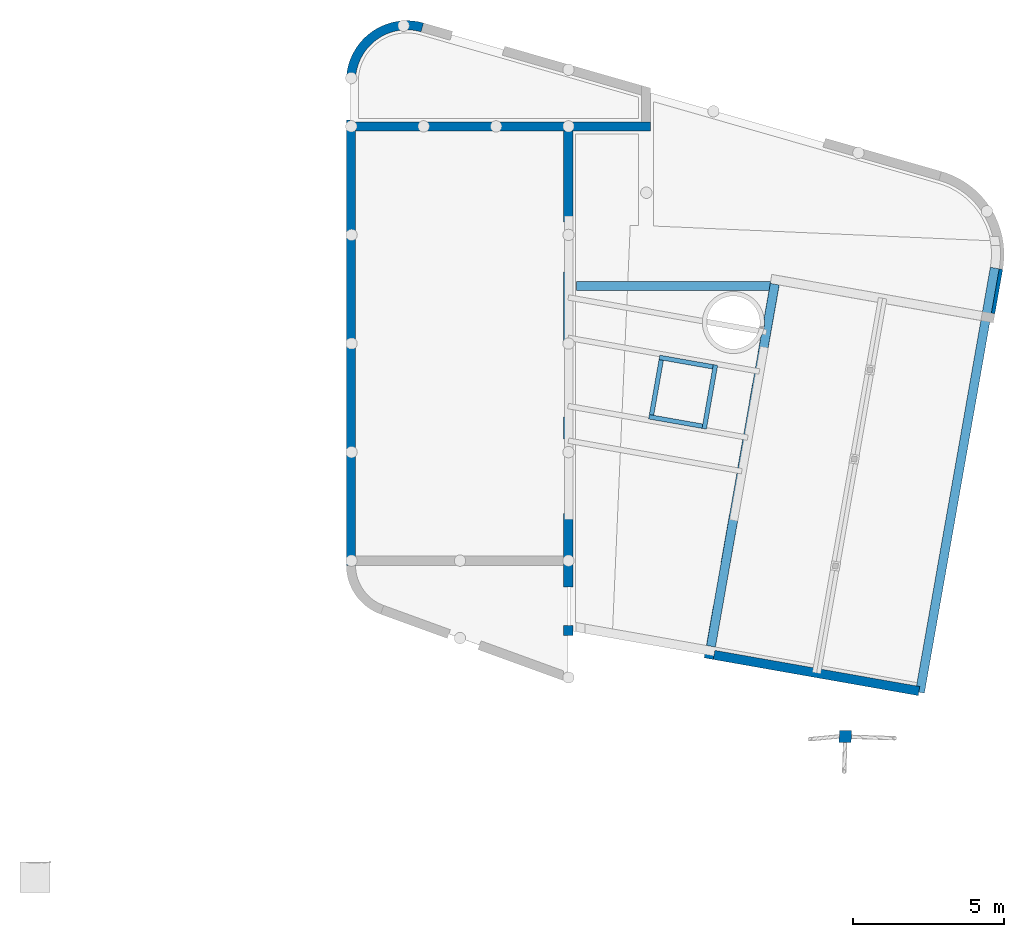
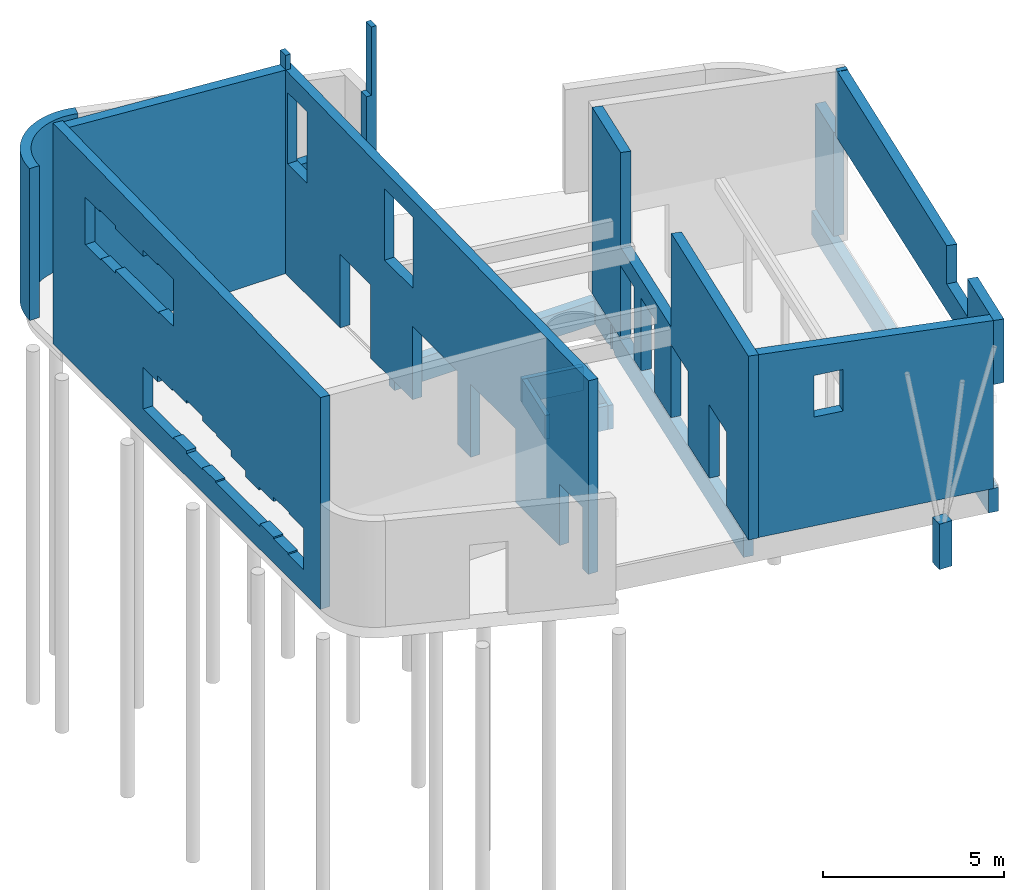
# One storey, part 2 of 3: 15 walls, 19 openings.
"""IFC2X3 building model written with IfcOpenShell, lengths in millimetres."""

from ifc_helpers import new_model, entity, si_unit, converted_unit, derived_unit, direction, frame, frame_2d, origin, place, context, subcontext, project, spatial, polyline, circle_curve, parameter, trimmed, segment, composite_curve, rectangle, outline, extrude, clip, bounded_halfspace, material, layer, layer_set, layer_usage, type_object, element, save


model = new_model("IFC2X3")

# Units and contexts
model_context = context("Model", 3, precision=0.01, world=origin(), true_north=direction((6.12303176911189e-17, 1.0)))
context_of_model = context(None, 3, precision=0.01, world=origin(), true_north=direction((6.12303176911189e-17, 1.0)))
body_context = subcontext(model_context, "Body", "Model", "MODEL_VIEW")
ifc_project = project(units=[si_unit("LENGTHUNIT", "METRE", prefix="MILLI"), si_unit("AREAUNIT", "SQUARE_METRE"), si_unit("VOLUMEUNIT", "CUBIC_METRE"), converted_unit("PLANEANGLEUNIT", "DEGREE", entity("IfcRatioMeasure", 0.0174532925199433), si_unit("PLANEANGLEUNIT", "RADIAN"), dimensions=[0, 0, 0, 0, 0, 0, 0]), si_unit("MASSUNIT", "GRAM", prefix="KILO"), derived_unit("MASSDENSITYUNIT", [(si_unit("MASSUNIT", "GRAM", prefix="KILO"), 1), (si_unit("LENGTHUNIT", "METRE"), -3)]), derived_unit("MOMENTOFINERTIAUNIT", [(si_unit("LENGTHUNIT", "METRE"), 4)]), si_unit("TIMEUNIT", "SECOND"), si_unit("FREQUENCYUNIT", "HERTZ"), si_unit("THERMODYNAMICTEMPERATUREUNIT", "DEGREE_CELSIUS"), derived_unit("THERMALTRANSMITTANCEUNIT", [(si_unit("MASSUNIT", "GRAM", prefix="KILO"), 1), (si_unit("THERMODYNAMICTEMPERATUREUNIT", "KELVIN"), -1), (si_unit("TIMEUNIT", "SECOND"), -3)]), derived_unit("VOLUMETRICFLOWRATEUNIT", [(si_unit("LENGTHUNIT", "METRE"), 3), (si_unit("TIMEUNIT", "SECOND"), -1)]), si_unit("ELECTRICCURRENTUNIT", "AMPERE"), si_unit("ELECTRICVOLTAGEUNIT", "VOLT"), si_unit("POWERUNIT", "WATT"), si_unit("FORCEUNIT", "NEWTON", prefix="KILO"), si_unit("ILLUMINANCEUNIT", "LUX"), si_unit("LUMINOUSFLUXUNIT", "LUMEN"), si_unit("LUMINOUSINTENSITYUNIT", "CANDELA"), derived_unit("USERDEFINED", [(si_unit("MASSUNIT", "GRAM", prefix="KILO"), -1), (si_unit("LENGTHUNIT", "METRE"), -2), (si_unit("TIMEUNIT", "SECOND"), 3), (si_unit("LUMINOUSFLUXUNIT", "LUMEN"), 1)]), derived_unit("LINEARVELOCITYUNIT", [(si_unit("LENGTHUNIT", "METRE"), 1), (si_unit("TIMEUNIT", "SECOND"), -1)]), si_unit("PRESSUREUNIT", "PASCAL"), derived_unit("USERDEFINED", [(si_unit("LENGTHUNIT", "METRE"), -2), (si_unit("MASSUNIT", "GRAM", prefix="KILO"), 1), (si_unit("TIMEUNIT", "SECOND"), -2)]), derived_unit("LINEARFORCEUNIT", [(si_unit("MASSUNIT", "GRAM", prefix="KILO"), 1), (si_unit("LENGTHUNIT", "METRE"), 1), (si_unit("TIMEUNIT", "SECOND"), -2), (si_unit("LENGTHUNIT", "METRE"), -1)]), derived_unit("PLANARFORCEUNIT", [(si_unit("MASSUNIT", "GRAM", prefix="KILO"), 1), (si_unit("LENGTHUNIT", "METRE"), 1), (si_unit("TIMEUNIT", "SECOND"), -2), (si_unit("LENGTHUNIT", "METRE"), -2)])], contexts=[model_context, context_of_model])

# Site, building, storey
site_placement = place(None, origin())
site = spatial("IfcSite", under=ifc_project, at=site_placement, Name="Default", CompositionType="ELEMENT")
building_placement = place(site_placement, origin())
building = spatial("IfcBuilding", under=site, at=building_placement, Name="IFc", CompositionType="ELEMENT")
storey_placement = place(building_placement, frame((0.0, 0.0, -70.0)))
storey = spatial("IfcBuildingStorey", under=building, at=storey_placement, Name="00 begane grond b.k. ruwe vloer", CompositionType="ELEMENT", Elevation=-70.0)

# Wall, opening
ifc_material_1 = material(Name="IMd_underlayment")
ifc_layer_1 = layer(ifc_material_1, 18.0)
ifc_material_2 = material(Name="IMd_hout")
ifc_layer_2 = layer(ifc_material_2, 270.0)
ifc_layer_3 = layer(ifc_material_1, 18.0)
ifc_layer_set_1 = layer_set([ifc_layer_1, ifc_layer_2, ifc_layer_3], Name="Basic Wall:NLRS_28_WA HSB_d=271")
ifc_layer_usage_1 = layer_usage(ifc_layer_set_1, "AXIS2", "NEGATIVE", 153.0)
wall_type_1 = type_object("IfcWallType", Name="Basic Wall:NLRS_28_WA HSB_d=271", PredefinedType="STANDARD", material=ifc_layer_set_1)
wall_1_placement = place(storey_placement, frame((19912.6696056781, 24397.0, 70.0), z_axis=(0.0, 0.0, 1.0), x_axis=(-1.0, 0.0, 0.0)))
wall_1 = element("IfcWallStandardCase", 1, at=wall_1_placement, inside=storey, type_object=wall_type_1, material=ifc_layer_usage_1, Name="Basic Wall:NLRS_28_WA HSB_d=271", ObjectType="Basic Wall:NLRS_28_WA HSB_d=271", context=body_context, shape_type="Clipping", body=[
    clip(extrude(rectangle(XDim=9787.66960567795, YDim=306.0, at=frame_2d((4893.83480283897, -5.25801624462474e-13), x_axis=(-1.0, 0.0))), origin(), (0.0, 0.0, 1.0), 7346.55553547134), bounded_halfspace(frame((2887.66960567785, -153.0, 6861.70889047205), z_axis=(0.0700806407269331, -0.0200951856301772, -0.997338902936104), x_axis=(0.958704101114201, -0.274902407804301, 0.0729048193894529)), True, frame((2887.66960567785, -153.0, 6861.70889047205)), polyline([(0.0, 0.0), (6900.0, 0.0), (6900.0, 306.0), (0.0, 306.0), (0.0, 0.0)]))),
])
opening_1_placement = place(wall_1_placement, origin())
element("IfcOpeningElement", 2, at=opening_1_placement, cuts=wall_1, Name="Basic Wall:NLRS_28_WA HSB_d=271", ObjectType="Opening", context=body_context, shape_type="SweptSolid", body=[
    extrude(outline(polyline([(-1670.11307045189, -4270.0), (911.556535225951, -4270.0), (911.556535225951, 1360.0), (758.556535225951, 1360.0), (758.556535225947, 2910.0), (-1670.1130704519, 2910.0), (-1670.11307045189, -4270.0)])), frame((1064.55653522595, 153.0, 6410.0), z_axis=(0.0, -1.0, 0.0), x_axis=(-1.0, 0.0, 0.0)), (0.0, 0.0, 1.0), 306.0),
])

# Wall, openings
ifc_layer_usage_2 = layer_usage(ifc_layer_set_1, "AXIS2", "NEGATIVE", 153.0)
wall_2_placement = place(storey_placement, frame((17178.0, 5903.98538399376, 60.0), z_axis=(0.0, 0.0, 1.0), x_axis=(0.0, 1.0, 0.0)))
wall_2 = element("IfcWallStandardCase", 3, at=wall_2_placement, inside=storey, type_object=wall_type_1, material=ifc_layer_usage_2, Name="Basic Wall:NLRS_28_WA HSB_d=271", ObjectType="Basic Wall:NLRS_28_WA HSB_d=271", context=body_context, shape_type="Clipping", body=[
    clip(clip(extrude(outline(polyline([(1619.46869295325, -153.0), (18646.0146160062, -153.0), (18646.0146160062, 153.0), (18340.0146160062, 153.0), (4246.01461600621, 153.0), (3940.01461600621, 153.0), (1619.46869295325, 153.0), (1619.46869295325, -153.0)])), origin(), (0.0, 0.0, 1.0), 6871.70889047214), bounded_halfspace(frame((1619.46869295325, -153.0, 6507.1424668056), z_axis=(0.0200951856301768, 0.0700806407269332, -0.997338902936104), x_axis=(0.274902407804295, 0.958704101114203, 0.0729048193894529)), True, frame((1619.46869295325, -153.0, 6507.1424668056)), polyline([(0.0, 0.0), (17026.545923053, 0.0), (17026.545923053, 306.0), (16720.545923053, 306.0), (2626.54592305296, 306.0), (2320.54592305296, 306.0), (0.0, 306.0), (0.0, 0.0)]))), bounded_halfspace(frame((18340.0146160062, -153.0, 10.0), z_axis=(-1.0, 0.0, 0.0), x_axis=(0.0, -1.0, 0.0)), True, frame((18340.0146160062, -153.0, 10.0), z_axis=(-1.0, 0.0, 0.0), x_axis=(0.0, -1.0, 0.0)), polyline([(0.0, 0.0), (0.0, 3500.0), (-306.0, 3500.0), (-306.0, 0.0), (0.0, 0.0)]))),
])
opening_2_placement = place(wall_2_placement, origin())
element("IfcOpeningElement", 4, at=opening_2_placement, cuts=wall_2, Name="Basic Wall:NLRS_28_WA HSB_d=271", ObjectType="Opening", context=body_context, shape_type="SweptSolid", body=[
    extrude(rectangle(XDim=2400.0, YDim=1567.0, at=frame_2d((0.0, 0.0), x_axis=(0.0, 1.0))), frame((12094.6040001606, 153.0, 4970.0), z_axis=(0.0, -1.0, 0.0), x_axis=(-1.0, 0.0, 0.0)), (0.0, 0.0, 1.0), 306.0),
])
opening_3_placement = place(wall_2_placement, origin())
element("IfcOpeningElement", 5, at=opening_3_placement, cuts=wall_2, Name="Basic Wall:NLRS_28_WA HSB_d=271", ObjectType="Opening", context=body_context, shape_type="SweptSolid", body=[
    extrude(rectangle(XDim=2400.00000000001, YDim=1064.0, at=frame_2d((0.0, 0.0), x_axis=(0.0, 1.0))), frame((17702.0146160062, 153.0, 4970.0), z_axis=(0.0, -1.0, 0.0), x_axis=(-1.0, 0.0, 0.0)), (0.0, 0.0, 1.0), 306.0),
])
opening_4_placement = place(wall_2_placement, origin())
element("IfcOpeningElement", 6, at=opening_4_placement, cuts=wall_2, Name="Basic Wall:NLRS_28_WA HSB_d=271", ObjectType="Opening", context=body_context, shape_type="SweptSolid", body=[
    extrude(rectangle(XDim=2070.0, YDim=1280.00000000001, at=frame_2d((0.0, -4.54747350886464e-13), x_axis=(0.0, 1.0))), frame((2584.75540203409, 153.0, 1035.0), z_axis=(0.0, -1.0, 0.0), x_axis=(1.0, 0.0, 0.0)), (0.0, 0.0, 1.0), 306.0),
])
opening_5_placement = place(wall_2_placement, origin())
element("IfcOpeningElement", 7, at=opening_5_placement, cuts=wall_2, Name="Basic Wall:NLRS_28_WA HSB_d=271", ObjectType="Opening", context=body_context, shape_type="SweptSolid", body=[
    extrude(rectangle(XDim=2470.00000000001, YDim=2467.0, at=frame_2d((0.0, 0.0), x_axis=(0.0, 1.0))), frame((6896.01461570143, 153.0, 1235.0), z_axis=(0.0, -1.0, 0.0), x_axis=(1.0, 0.0, 0.0)), (0.0, 0.0, 1.0), 306.0),
])
opening_6_placement = place(wall_2_placement, origin())
element("IfcOpeningElement", 8, at=opening_6_placement, cuts=wall_2, Name="Basic Wall:NLRS_28_WA HSB_d=271", ObjectType="Opening", context=body_context, shape_type="SweptSolid", body=[
    extrude(rectangle(XDim=2470.0, YDim=2467.0, at=frame_2d((0.0, 0.0), x_axis=(0.0, 1.0))), frame((10096.0146157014, 153.0, 1235.0), z_axis=(0.0, -1.0, 0.0), x_axis=(1.0, 0.0, 0.0)), (0.0, 0.0, 1.0), 306.0),
])
opening_7_placement = place(wall_2_placement, origin())
element("IfcOpeningElement", 9, at=opening_7_placement, cuts=wall_2, Name="Basic Wall:NLRS_28_WA HSB_d=271", ObjectType="Opening", context=body_context, shape_type="SweptSolid", body=[
    extrude(rectangle(XDim=2469.99999999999, YDim=1667.00000000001, at=frame_2d((-2.1600499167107e-12, -2.38742359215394e-12), x_axis=(0.0, 1.0))), frame((14496.0146160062, 153.0, 1235.0), z_axis=(0.0, -1.0, 0.0), x_axis=(1.0, 0.0, 0.0)), (0.0, 0.0, 1.0), 306.0),
])
opening_8_placement = place(wall_2_placement, origin())
element("IfcOpeningElement", 10, at=opening_8_placement, cuts=wall_2, Name="Basic Wall:NLRS_28_WA HSB_d=271", ObjectType="Opening", context=body_context, shape_type="SweptSolid", body=[
    extrude(rectangle(XDim=7190.00000000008, YDim=1400.98239480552, at=frame_2d((-5.6843418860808e-13, 1.13686837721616e-12), x_axis=(0.0, 1.0))), frame((918.977495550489, 153.0, 7095.0), z_axis=(0.0, -1.0, 0.0), x_axis=(-1.0, 0.0, 0.0)), (0.0, 0.0, 1.0), 306.0),
])
opening_9_placement = place(wall_2_placement, origin())
element("IfcOpeningElement", 11, at=opening_9_placement, cuts=wall_2, Name="Basic Wall:NLRS_28_WA HSB_d=271", ObjectType="Opening", context=body_context, shape_type="SweptSolid", body=[
    extrude(rectangle(XDim=2070.0, YDim=1199.26721811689, at=frame_2d((0.0, 4.54747350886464e-13), x_axis=(0.0, 1.0))), frame((1007.61038852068, 153.0, 1035.0), z_axis=(0.0, -1.0, 0.0), x_axis=(1.0, 0.0, 0.0)), (0.0, 0.0, 1.0), 306.0),
])

ifc_layer_usage_3 = layer_usage(ifc_layer_set_1, "AXIS2", "NEGATIVE", 153.0)
wall_3_placement = place(storey_placement, frame((9972.0, 25897.4538590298, 0.0), z_axis=(0.0, 0.0, 1.0), x_axis=(0.0, -1.0, 0.0)))
wall_3 = element("IfcWallStandardCase", 12, at=wall_3_placement, inside=storey, type_object=wall_type_1, material=ifc_layer_usage_3, Name="Basic Wall:NLRS_28_WA HSB_d=271", ObjectType="Basic Wall:NLRS_28_WA HSB_d=271", context=body_context, shape_type="Clipping", body=[
    clip(extrude(outline(polyline([(1286.08411395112, -153.0), (16053.8255288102, -153.0), (16053.4538590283, 153.0), (15747.4538590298, 153.0), (1653.45385902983, 153.0), (1347.45385902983, 153.0), (1286.08411395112, 153.0), (1286.08411395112, -153.0)])), origin(), (0.0, 0.0, 1.0), 7439.29395710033), bounded_halfspace(frame((1286.08411395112, -153.0, 7439.29395710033), z_axis=(-0.0200951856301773, -0.0700806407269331, -0.997338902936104), x_axis=(-0.274902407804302, -0.958704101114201, 0.0729048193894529)), True, frame((1286.08411395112, -153.0, 7439.29395710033)), polyline([(0.0, 0.0), (14767.7414148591, 0.0), (14767.3697450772, 306.0), (14461.3697450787, 306.0), (367.369745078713, 306.0), (61.3697450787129, 306.0), (0.0, 306.0), (0.0, 0.0)]))),
])
opening_10_placement = place(wall_3_placement, origin())
element("IfcOpeningElement", 13, at=opening_10_placement, cuts=wall_3, Name="Basic Wall:NLRS_28_WA HSB_d=271", ObjectType="Opening", context=body_context, shape_type="SweptSolid", body=[
    extrude(outline(polyline([(-2434.15789473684, -928.947368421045), (-1571.15789473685, -928.947368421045), (-1571.15789473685, -878.947368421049), (-771.157894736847, -878.947368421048), (-771.157894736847, -778.947368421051), (1584.84210526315, -778.947368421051), (1628.84210526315, -778.947368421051), (1628.84210526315, -728.947368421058), (2428.84210526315, -728.947368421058), (2428.84210526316, 871.05263157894), (1565.84210526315, 871.052631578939), (1565.84210526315, 821.052631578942), (765.842105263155, 821.052631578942), (765.842105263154, 621.052631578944), (-771.157894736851, 621.052631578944), (-771.157894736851, 721.052631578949), (-1634.15789473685, 721.052631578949), (-1634.15789473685, 671.052631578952), (-2434.15789473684, 671.052631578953), (-2434.15789473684, -928.947368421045)])), frame((5500.11175376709, 153.0, 5348.94736842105), z_axis=(0.0, -1.0, 0.0), x_axis=(1.0, 0.0, 0.0)), (0.0, 0.0, 1.0), 306.0),
])
opening_11_placement = place(wall_3_placement, origin())
element("IfcOpeningElement", 14, at=opening_11_placement, cuts=wall_3, Name="Basic Wall:NLRS_28_WA HSB_d=271", ObjectType="Opening", context=body_context, shape_type="SweptSolid", body=[
    extrude(outline(polyline([(-842.105263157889, -2872.10526315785), (-842.105263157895, -4535.10526315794), (557.894736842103, -4535.10526315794), (557.894736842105, -3735.10526315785), (757.894736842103, -3735.10526315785), (757.894736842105, -2935.10526315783), (807.894736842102, -2935.10526315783), (807.894736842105, -2135.10526315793), (907.894736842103, -2135.10526315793), (907.894736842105, -1272.10526315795), (757.894736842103, -1272.10526315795), (757.894736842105, -472.105263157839), (707.894736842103, -472.105263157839), (707.894736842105, 327.894736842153), (507.894736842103, 327.894736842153), (507.894736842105, 1127.89473684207), (307.894736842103, 1127.89473684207), (307.894736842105, 1864.89473684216), (407.894736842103, 1864.89473684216), (407.894736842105, 2664.89473684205), (557.894736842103, 2664.89473684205), (557.894736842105, 3527.89473684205), (507.894736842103, 3527.89473684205), (507.894736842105, 4327.89473684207), (-892.105263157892, 4327.89473684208), (-892.105263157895, 3464.89473684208), (-842.105263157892, 3464.89473684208), (-842.105263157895, 2664.89473684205), (-792.105263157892, 2664.89473684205), (-792.105263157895, 1927.89473684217), (-892.105263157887, 1927.89473684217), (-892.105263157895, -535.105263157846), (-842.105263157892, -535.105263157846), (-842.105263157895, -1272.10526315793), (-892.105263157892, -1272.10526315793), (-892.105263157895, -2135.10526315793), (-792.105263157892, -2135.10526315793), (-792.105263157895, -2872.10526315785), (-842.105263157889, -2872.10526315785)])), frame((10801.0591221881, 153.0, 1662.1052631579), z_axis=(0.0, 1.0, 0.0), x_axis=(0.0, 0.0, 1.0)), (0.0, 0.0, -1.0), 306.0),
])
opening_12_placement = place(wall_3_placement, origin())
element("IfcOpeningElement", 15, at=opening_12_placement, cuts=wall_3, Name="Basic Wall:NLRS_28_WA HSB_d=271", ObjectType="Opening", context=body_context, shape_type="SweptSolid", body=[
    extrude(rectangle(XDim=5630.0, YDim=1285.91700239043, at=frame_2d((2.1600499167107e-12, 1.59161572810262e-12), x_axis=(0.0, 1.0))), frame((643.125612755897, 153.0, 7935.0), z_axis=(0.0, -1.0, 0.0), x_axis=(-1.0, 0.0, 0.0)), (0.0, 0.0, 1.0), 306.0),
])

# Wall
ifc_layer_usage_4 = layer_usage(ifc_layer_set_1, "AXIS2", "POSITIVE", -153.0)
wall_4_placement = place(storey_placement, frame((9971.99964898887, 25897.1261254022, 0.0)))
element("IfcWallStandardCase", 16, at=wall_4_placement, inside=storey, type_object=wall_type_1, material=ifc_layer_usage_4, Name="Basic Wall:NLRS_28_WA HSB_d=271", ObjectType="Basic Wall:NLRS_28_WA HSB_d=271", context=body_context, shape_type="SweptSolid", body=[
    extrude(outline(composite_curve([segment(trimmed(circle_curve(frame_2d((1856.07848287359, -3.97582175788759), x_axis=(1.0, 0.0)), 2009.08274108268), [parameter(73.9929851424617)], [parameter(179.877269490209)], True, "PARAMETER"), True, "CONTINUOUS"), segment(polyline([(-152.999648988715, 0.327733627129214), (153.000351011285, -0.013531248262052)]), True, "CONTINUOUS"), segment(trimmed(circle_curve(frame_2d((1856.07848287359, -3.97582175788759), x_axis=(1.0, 0.0)), 1703.08274108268), [parameter(73.9929851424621)], [parameter(179.866698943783)], True, "PARAMETER"), False, "CONTINUOUS"), segment(polyline([(2325.71213786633, 1633.07489617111), (2410.09318111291, 1927.21064636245)]), True, "CONTINUOUS")], self_intersect=False)), origin(), (0.0, 0.0, 1.0), 5120.0),
])

# Wall, openings
ifc_layer_usage_5 = layer_usage(ifc_layer_set_1, "AXIS2", "NEGATIVE", 153.0)
wall_5_placement = place(storey_placement, frame((24025.4009590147, 19161.6606302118, 50.0), z_axis=(0.0, 0.0, 1.0), x_axis=(-0.173648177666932, -0.984807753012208, 0.0)))
wall_5 = element("IfcWallStandardCase", 17, at=wall_5_placement, inside=storey, type_object=wall_type_1, material=ifc_layer_usage_5, Name="Basic Wall:NLRS_28_WA HSB_d=271", ObjectType="Basic Wall:NLRS_28_WA HSB_d=271", context=body_context, shape_type="Clipping", body=[
    clip(clip(extrude(rectangle(XDim=12606.0, YDim=306.000000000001, at=frame_2d((6303.0, -1.08002495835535e-12), x_axis=(-1.0, 0.0))), origin(), (0.0, 0.0, 1.0), 6292.36164978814), bounded_halfspace(frame((6384.0, -153.0, 6243.58244995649), z_axis=(-0.00762051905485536, -0.0725054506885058, -0.997338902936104), x_axis=(-0.104248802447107, -0.991875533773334, 0.0729048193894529)), True, frame((6384.0, -153.0, 6243.58244995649)), polyline([(0.0, 0.0), (6222.0, 0.0), (6222.0, 306.0), (5916.0, 306.0), (0.0, 306.0), (0.0, 0.0)]))), bounded_halfspace(frame((0.0, -153.0, 6292.36164978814), z_axis=(-0.00762051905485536, -0.0725054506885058, -0.997338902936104), x_axis=(-0.104248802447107, -0.991875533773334, 0.0729048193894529)), True, frame((0.0, -153.0, 6292.36164978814)), polyline([(0.0, 0.0), (2300.0, 0.0), (2300.0, 306.0), (0.0, 306.0), (0.0, 0.0)]))),
])
opening_13_placement = place(wall_5_placement, origin())
element("IfcOpeningElement", 18, at=opening_13_placement, cuts=wall_5, Name="Basic Wall:NLRS_28_WA HSB_d=271", ObjectType="Opening", context=body_context, shape_type="SweptSolid", body=[
    extrude(rectangle(XDim=2457.0, YDim=1084.0, at=frame_2d((0.0, 0.0), x_axis=(0.0, 1.0))), frame((4492.0, 153.0, 1228.5), z_axis=(0.0, -1.0, 0.0), x_axis=(1.0, 0.0, 0.0)), (0.0, 0.0, 1.0), 306.0),
])
opening_14_placement = place(wall_5_placement, origin())
element("IfcOpeningElement", 19, at=opening_14_placement, cuts=wall_5, Name="Basic Wall:NLRS_28_WA HSB_d=271", ObjectType="Opening", context=body_context, shape_type="SweptSolid", body=[
    extrude(outline(polyline([(-3020.60000000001, -996.0), (3082.40000000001, -996.0), (3082.40000000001, -986.0), (1479.4, -986.0), (1479.4, 1484.0), (79.399999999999, 1484.0), (79.3999999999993, -986.0), (-1620.6, -986.0), (-1620.6, 1484.0), (-3020.60000000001, 1484.0), (-3020.60000000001, -996.0)])), frame((9370.6, 153.0, 996.0), z_axis=(0.0, -1.0, 0.0), x_axis=(1.0, 0.0, 0.0)), (0.0, 0.0, 1.0), 306.0),
])
opening_15_placement = place(wall_5_placement, origin())
element("IfcOpeningElement", 20, at=opening_15_placement, cuts=wall_5, Name="Basic Wall:NLRS_28_WA HSB_d=271", ObjectType="Opening", context=body_context, shape_type="SweptSolid", body=[
    extrude(rectangle(XDim=7619.99999999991, YDim=4083.99999999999, at=frame_2d((4.32009983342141e-12, 0.0), x_axis=(0.0, 1.0))), frame((4342.0, 153.0, 6890.0), z_axis=(0.0, -1.0, 0.0), x_axis=(-1.0, 0.0, 0.0)), (0.0, 0.0, 1.0), 306.0),
])
opening_16_placement = place(wall_5_placement, origin())
element("IfcOpeningElement", 21, at=opening_16_placement, cuts=wall_5, Name="Basic Wall:NLRS_28_WA HSB_d=271", ObjectType="Opening", context=body_context, shape_type="SweptSolid", body=[
    extrude(outline(polyline([(812.333333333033, -2002.0), (822.333333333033, -2002.0), (822.333333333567, 1543.0), (-1634.66666666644, 1543.0), (-1634.6666666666, 459.0), (812.333333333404, 459.0), (812.333333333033, -2002.0)])), frame((1849.0, 153.0, 822.333333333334), z_axis=(0.0, -1.0, 0.0), x_axis=(0.0, 0.0, -1.0)), (0.0, 0.0, 1.0), 306.0),
])

# Wall, opening
ifc_layer_usage_6 = layer_usage(ifc_layer_set_1, "AXIS2", "NEGATIVE", 153.0)
wall_6_placement = place(storey_placement, frame((28808.8142595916, 5673.10820762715, 60.0), z_axis=(0.0, 0.0, 1.0), x_axis=(-0.984807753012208, 0.173648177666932, 0.0)))
wall_6 = element("IfcWallStandardCase", 22, at=wall_6_placement, inside=storey, type_object=wall_type_1, material=ifc_layer_usage_6, Name="Basic Wall:NLRS_28_WA HSB_d=271", ObjectType="Basic Wall:NLRS_28_WA HSB_d=271", context=body_context, shape_type="Clipping", body=[
    clip(extrude(rectangle(XDim=6900.00505181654, YDim=306.0, at=frame_2d((3450.00252590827, -4.68958205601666e-13), x_axis=(-1.0, 0.0))), origin(), (0.0, 0.0, 1.0), 6166.13330258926), bounded_halfspace(frame((0.0101037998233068, -153.0, 5664.51119401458), z_axis=(0.0725054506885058, -0.00762051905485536, -0.997338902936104), x_axis=(0.991875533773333, -0.104248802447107, 0.0729048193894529)), True, frame((0.0101037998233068, -153.0, 5664.51119401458)), polyline([(0.0, 0.0), (6899.99494801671, 0.0), (6899.99494801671, 306.0), (-0.0101037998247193, 306.0), (0.0, 0.0)]))),
])
opening_17_placement = place(wall_6_placement, origin())
element("IfcOpeningElement", 23, at=opening_17_placement, cuts=wall_6, Name="Basic Wall:NLRS_28_WA HSB_d=271", ObjectType="Opening", context=body_context, shape_type="SweptSolid", body=[
    extrude(rectangle(XDim=1400.0, YDim=863.000000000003, at=frame_2d((2.8421709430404e-13, 2.21689333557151e-12), x_axis=(1.0, 0.0))), frame((4850.00505181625, 153.0, 4370.0), z_axis=(0.0, -1.0, 0.0), x_axis=(0.0, 0.0, -1.0)), (0.0, 0.0, 1.0), 306.0),
])

# Wall, openings
ifc_layer_usage_7 = layer_usage(ifc_layer_set_1, "AXIS2", "NEGATIVE", 153.0)
wall_7_placement = place(storey_placement, frame((31433.2418591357, 19678.6232738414, 60.0), z_axis=(0.0, 0.0, 1.0), x_axis=(-0.173615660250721, -0.984813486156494, 0.0)))
wall_7 = element("IfcWallStandardCase", 24, at=wall_7_placement, inside=storey, type_object=wall_type_1, material=ifc_layer_usage_7, Name="Basic Wall:NLRS_28_WA HSB_d=271", ObjectType="Basic Wall:NLRS_28_WA HSB_d=271", context=body_context, shape_type="Clipping", body=[
    clip(clip(clip(extrude(rectangle(XDim=14401.4719519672, YDim=305.999999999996, at=frame_2d((7200.73597598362, 1.46371803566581e-12), x_axis=(-1.0, 0.0))), origin(), (0.0, 0.0, 1.0), 5758.52320032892), bounded_halfspace(frame((12276.9780862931, -153.0, 5678.41032464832), z_axis=(-0.00762291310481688, -0.0725051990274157, -0.997338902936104), x_axis=(-0.104281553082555, -0.991872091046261, 0.0729048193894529)), True, frame((12276.9780862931, -153.0, 5678.41032464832)), polyline([(0.0, 0.0), (1818.48376170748, 0.0), (2124.48376187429, 0.0), (2124.49386567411, 306.0), (-0.000196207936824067, 306.0), (0.0, 0.0)]))), bounded_halfspace(frame((1795.46184129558, -153.0, 5758.52320032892), z_axis=(-0.00762291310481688, -0.0725051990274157, -0.997338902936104), x_axis=(-0.104281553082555, -0.991872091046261, 0.0729048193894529)), True, frame((1795.46184129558, -153.0, 5758.52320032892)), polyline([(0.0, 0.0), (8818.48990496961, 0.0), (8818.48990496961, 306.0), (0.0101037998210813, 306.0), (0.0, 0.0)]))), bounded_halfspace(frame((1489.46184112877, -153.0, 3500.0), z_axis=(-1.0, 3.30189536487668e-05, 0.0), x_axis=(-3.30189536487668e-05, -1.0, 0.0)), True, frame((1489.46184112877, -153.0, 3500.0), z_axis=(-1.0, 3.30189536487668e-05, 0.0), x_axis=(-3.30189536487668e-05, -1.0, 0.0)), polyline([(0.0, 0.0), (-306.0, 0.0), (-306.0, -3500.0), (0.0, -3500.0), (0.0, 0.0)]))),
])
opening_18_placement = place(wall_7_placement, origin())
element("IfcOpeningElement", 25, at=opening_18_placement, cuts=wall_7, Name="Basic Wall:NLRS_28_WA HSB_d=271", ObjectType="Opening", context=body_context, shape_type="SweptSolid", body=[
    extrude(outline(polyline([(-831.549140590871, -3145.0), (831.521401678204, -3145.0), (831.521401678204, 3145.0), (-831.493662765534, 3145.0), (-831.549140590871, -3145.0)])), frame((11445.4731479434, 153.0, 7545.0), z_axis=(0.0, -1.0, 0.0), x_axis=(-1.0, 0.0, 0.0)), (0.0, 0.0, 1.0), 306.0),
])
opening_19_placement = place(wall_7_placement, origin())
element("IfcOpeningElement", 26, at=opening_19_placement, cuts=wall_7, Name="Basic Wall:NLRS_28_WA HSB_d=271", ObjectType="Opening", context=body_context, shape_type="SweptSolid", body=[
    extrude(rectangle(XDim=7190.0, YDim=1642.46689311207, at=frame_2d((-2.55795384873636e-12, -4.54747350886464e-13), x_axis=(0.0, 1.0))), frame((821.233446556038, 153.0, 7095.0), z_axis=(0.0, -1.0, 0.0), x_axis=(-1.0, 0.0, 0.0)), (0.0, 0.0, 1.0), 306.0),
])

# Walls
ifc_material_3 = material(Name="IMd_beton_prefab")
ifc_layer_4 = layer(ifc_material_3, 300.0)
ifc_layer_set_2 = layer_set([ifc_layer_4], Name="Basic Wall:NLRS_16_WA Funderingsbalk_beton_prefab_300x800")
ifc_layer_usage_8 = layer_usage(ifc_layer_set_2, "AXIS2", "NEGATIVE", 150.0)
wall_type_2 = type_object("IfcWallType", Name="Basic Wall:NLRS_16_WA Funderingsbalk_beton_prefab_300x800", PredefinedType="STANDARD", material=ifc_layer_set_2)
wall_8_placement = place(storey_placement, frame((31320.0072792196, 19698.6966853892, -820.0), z_axis=(0.0, 0.0, 1.0), x_axis=(-0.173615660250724, -0.984813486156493, 0.0)))
element("IfcWallStandardCase", 27, at=wall_8_placement, inside=storey, type_object=wall_type_2, material=ifc_layer_usage_8, Name="Basic Wall:NLRS_16_WA Funderingsbalk_beton_prefab_300x800", ObjectType="Basic Wall:NLRS_16_WA Funderingsbalk_beton_prefab_300x800", context=body_context, shape_type="SweptSolid", body=[
    extrude(rectangle(XDim=14283.5773257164, YDim=299.999999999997, at=frame_2d((7141.78866285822, -7.53175299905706e-13), x_axis=(-1.0, 0.0))), origin(), (0.0, 0.0, 1.0), 800.0),
])
ifc_layer_usage_9 = layer_usage(ifc_layer_set_2, "AXIS2", "NEGATIVE", 150.0)
wall_9_placement = place(storey_placement, frame((21911.9315606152, 7158.26565717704, -820.0), z_axis=(0.0, 0.0, 1.0), x_axis=(0.173408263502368, 0.984850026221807, 0.0)))
element("IfcWallStandardCase", 28, at=wall_9_placement, inside=storey, type_object=wall_type_2, material=ifc_layer_usage_9, Name="Basic Wall:NLRS_16_WA Funderingsbalk_beton_prefab_300x800", ObjectType="Basic Wall:NLRS_16_WA Funderingsbalk_beton_prefab_300x800", context=body_context, shape_type="SweptSolid", body=[
    extrude(outline(composite_curve([segment(polyline([(-236.508465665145, -3050.99275777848), (63.491534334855, -3050.99275777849)]), True, "CONTINUOUS"), segment(polyline([(63.4915343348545, -3050.99275777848), (63.4915343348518, -2810.35050689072)]), True, "CONTINUOUS"), segment(polyline([(63.4915343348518, -2810.35050689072), (63.4915343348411, -1876.93577384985)]), True, "CONTINUOUS"), segment(trimmed(circle_curve(frame_2d((1043.98344574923, -1561.44312472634), x_axis=(-0.984814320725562, -0.17361092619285)), 1030.0), [parameter(351.381713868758)], [parameter(7.83877263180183)], True, "PARAMETER"), False, "CONTINUOUS"), segment(polyline([(14.2819934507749, -1586.2406878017), (63.4915343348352, -1585.63069020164)]), True, "CONTINUOUS"), segment(polyline([(63.4915343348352, -1585.63069020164), (63.4915343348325, -1536.77769355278)]), True, "CONTINUOUS"), segment(polyline([(63.4915343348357, -1536.77769355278), (14.2941975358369, -1536.14387347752)]), True, "CONTINUOUS"), segment(trimmed(circle_curve(frame_2d((1043.98344574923, -1561.44312472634), x_axis=(-0.984814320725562, -0.17361092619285)), 1030.0), [parameter(332.165561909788)], [parameter(348.594705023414)], True, "PARAMETER"), False, "CONTINUOUS"), segment(polyline([(63.4915343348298, -1245.95047560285), (63.4915343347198, 9139.97106696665)]), True, "CONTINUOUS"), segment(polyline([(63.4915343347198, 9139.97106696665), (-236.508465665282, 9140.04414996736)]), True, "CONTINUOUS"), segment(polyline([(-236.508465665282, 9140.04414996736), (-236.508465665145, -3050.99275777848)]), True, "CONTINUOUS")], self_intersect=False)), frame((9140.04414996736, 86.5084656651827, 0.0), z_axis=(0.0, 0.0, 1.0), x_axis=(0.0, 1.0, 0.0)), (0.0, 0.0, 1.0), 800.0),
])
ifc_layer_usage_10 = layer_usage(ifc_layer_set_2, "AXIS2", "NEGATIVE", 150.0)
wall_10_placement = place(storey_placement, frame((17445.0, 19103.62338787, -820.0)))
element("IfcWallStandardCase", 29, at=wall_10_placement, inside=storey, type_object=wall_type_2, material=ifc_layer_usage_10, Name="Basic Wall:NLRS_16_WA Funderingsbalk_beton_prefab_300x800", ObjectType="Basic Wall:NLRS_16_WA Funderingsbalk_beton_prefab_300x800", context=body_context, shape_type="SweptSolid", body=[
    extrude(outline(polyline([(6391.50124229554, -150.0), (6433.23059714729, 86.9965270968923), (6444.32398450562, 150.0), (0.0, 150.0), (0.0, -150.0), (6391.50124229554, -150.0)])), origin(), (0.0, 0.0, 1.0), 800.0),
])
ifc_material_4 = material(Name="IMd_beton_IHWG")
ifc_layer_5 = layer(ifc_material_4, 400.0)
ifc_layer_set_3 = layer_set([ifc_layer_5], Name="Basic Wall:NLRS_16_WA Funderingspoer_beton_ihwg_400x400x1530")
ifc_layer_usage_11 = layer_usage(ifc_layer_set_3, "AXIS2", "NEGATIVE", 200.0)
wall_type_3 = type_object("IfcWallType", Name="Basic Wall:NLRS_16_WA Funderingspoer_beton_ihwg_400x400x1530", PredefinedType="STANDARD", material=ifc_layer_set_3)
wall_11_placement = place(storey_placement, frame((26565.5036822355, 4159.81729893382, -820.0), z_axis=(0.0, 0.0, 1.0), x_axis=(-0.999390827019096, 0.0348994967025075, 0.0)))
element("IfcWallStandardCase", 30, at=wall_11_placement, inside=storey, type_object=wall_type_3, material=ifc_layer_usage_11, Name="Basic Wall:NLRS_16_WA Funderingspoer_beton_ihwg_400x400x1530", ObjectType="Basic Wall:NLRS_16_WA Funderingspoer_beton_ihwg_400x400x1530", context=body_context, shape_type="SweptSolid", body=[
    extrude(rectangle(XDim=400.000000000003, YDim=400.0, at=frame_2d((200.000000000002, -4.2632564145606e-14), x_axis=(-1.0, 0.0))), origin(), (0.0, 0.0, 1.0), 1529.99942378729),
])
ifc_layer_6 = layer(ifc_material_3, 150.0)
ifc_layer_set_4 = layer_set([ifc_layer_6], Name="Basic Wall:NLRS_16_WA Funderingsbalk_beton_prefab_150x810")
ifc_layer_usage_12 = layer_usage(ifc_layer_set_4, "AXIS2", "NEGATIVE", 75.0)
wall_type_4 = type_object("IfcWallType", Name="Basic Wall:NLRS_16_WA Funderingsbalk_beton_prefab_150x810", PredefinedType="STANDARD", material=ifc_layer_set_4)
wall_12_placement = place(storey_placement, frame((19854.0671839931, 14767.957686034, -820.0), z_axis=(0.0, 0.0, 1.0), x_axis=(0.984807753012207, -0.173648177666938, 0.0)))
element("IfcWallStandardCase", 31, at=wall_12_placement, inside=storey, type_object=wall_type_4, material=ifc_layer_usage_12, Name="Basic Wall:NLRS_16_WA Funderingsbalk_beton_prefab_150x810", ObjectType="Basic Wall:NLRS_16_WA Funderingsbalk_beton_prefab_150x810", context=body_context, shape_type="SweptSolid", body=[
    extrude(rectangle(XDim=1799.94683873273, YDim=150.000000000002, at=frame_2d((899.973419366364, 1.48503431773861e-12), x_axis=(-1.0, 0.0))), origin(), (0.0, 0.0, 1.0), 810.0),
])
ifc_layer_usage_13 = layer_usage(ifc_layer_set_4, "AXIS2", "NEGATIVE", 75.0)
wall_13_placement = place(storey_placement, frame((20201.3635393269, 16737.5731920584, -820.0), z_axis=(0.0, 0.0, 1.0), x_axis=(0.984807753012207, -0.173648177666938, 0.0)))
element("IfcWallStandardCase", 32, at=wall_13_placement, inside=storey, type_object=wall_type_4, material=ifc_layer_usage_13, Name="Basic Wall:NLRS_16_WA Funderingsbalk_beton_prefab_150x810", ObjectType="Basic Wall:NLRS_16_WA Funderingsbalk_beton_prefab_150x810", context=body_context, shape_type="SweptSolid", body=[
    extrude(rectangle(XDim=1799.94683873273, YDim=150.000000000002, at=frame_2d((899.973419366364, 4.19220214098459e-13), x_axis=(-1.0, 0.0))), origin(), (0.0, 0.0, 1.0), 810.0),
])
ifc_layer_usage_14 = layer_usage(ifc_layer_set_4, "AXIS2", "NEGATIVE", 75.0)
wall_14_placement = place(storey_placement, frame((20262.2005074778, 16650.6889972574, -820.0), z_axis=(0.0, 0.0, 1.0), x_axis=(-0.173648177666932, -0.984807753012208, 0.0)))
element("IfcWallStandardCase", 33, at=wall_14_placement, inside=storey, type_object=wall_type_4, material=ifc_layer_usage_14, Name="Basic Wall:NLRS_16_WA Funderingsbalk_beton_prefab_150x810", ObjectType="Basic Wall:NLRS_16_WA Funderingsbalk_beton_prefab_150x810", context=body_context, shape_type="SweptSolid", body=[
    extrude(rectangle(XDim=1850.0, YDim=149.999999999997, at=frame_2d((925.000000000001, -1.70530256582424e-13), x_axis=(-1.0, 0.0))), origin(), (0.0, 0.0, 1.0), 810.0),
])
ifc_layer_usage_15 = layer_usage(ifc_layer_set_4, "AXIS2", "NEGATIVE", 75.0)
wall_15_placement = place(storey_placement, frame((22060.8493359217, 16485.852671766, -820.0), z_axis=(0.0, 0.0, 1.0), x_axis=(-0.173648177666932, -0.984807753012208, 0.0)))
element("IfcWallStandardCase", 34, at=wall_15_placement, inside=storey, type_object=wall_type_4, material=ifc_layer_usage_15, Name="Basic Wall:NLRS_16_WA Funderingsbalk_beton_prefab_150x810", ObjectType="Basic Wall:NLRS_16_WA Funderingsbalk_beton_prefab_150x810", context=body_context, shape_type="SweptSolid", body=[
    extrude(rectangle(XDim=2150.0, YDim=149.999999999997, at=frame_2d((1075.0, 5.04485342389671e-13), x_axis=(-1.0, 0.0))), origin(), (0.0, 0.0, 1.0), 810.0),
])

save(model, "model.ifc")
